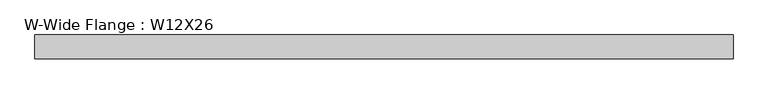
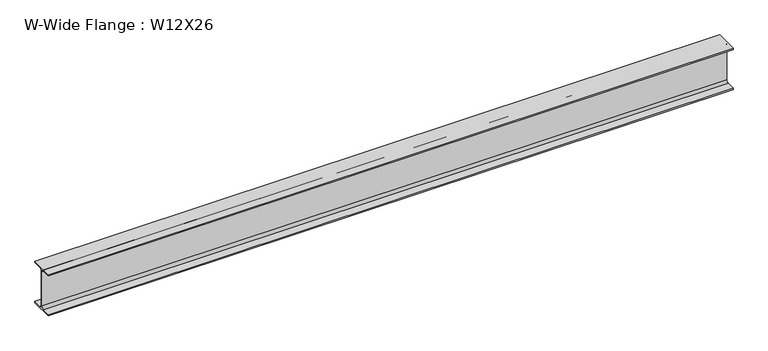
"""IFC4 building model written with IfcOpenShell, lengths in millimetres: beam geometry, W-Wide Flange : W12X26."""

from ifc_helpers import new_model, si_unit, point, frame, frame_2d, origin, place, context, project, spatial, polyline, circle_curve, trimmed, segment, composite_curve, outline, extrude, source, transform, mapped, element, save


def w_wide_flange_w12x26_1716f5f9(model_context):
    return source(origin(), model_context, "Body", "SweptSolid", [
        extrude(outline(composite_curve([segment(polyline([(82.423, -145.288), (82.423, -154.94), (-82.423, -154.94), (-82.423, -145.288), (-20.2565, -145.288)]), True, "CONTINUOUS"), segment(trimmed(circle_curve(frame_2d((-20.2565, -127.9525)), 17.3355), [point((-20.2565, -145.288))], [point((-2.921, -127.9525))], True, "CARTESIAN"), True, "CONTINUOUS"), segment(polyline([(-2.921, -127.9525), (-2.921, 127.9525)]), True, "CONTINUOUS"), segment(trimmed(circle_curve(frame_2d((-20.2565, 127.9525)), 17.3355), [point((-2.921, 127.9525))], [point((-20.2565, 145.288))], True, "CARTESIAN"), True, "CONTINUOUS"), segment(polyline([(-20.2565, 145.288), (-82.423, 145.288), (-82.423, 154.94), (82.423, 154.94), (82.423, 145.288), (20.2565, 145.288)]), True, "CONTINUOUS"), segment(trimmed(circle_curve(frame_2d((20.2565, 127.9525)), 17.3355), [point((20.2565, 145.288))], [point((2.921, 127.9525))], True, "CARTESIAN"), True, "CONTINUOUS"), segment(polyline([(2.921, 127.9525), (2.921, -127.9525)]), True, "CONTINUOUS"), segment(trimmed(circle_curve(frame_2d((20.2565, -127.9525)), 17.3355), [point((2.921, -127.9525))], [point((20.2565, -145.288))], True, "CARTESIAN"), True, "CONTINUOUS"), segment(polyline([(20.2565, -145.288), (82.423, -145.288)]), True, "CONTINUOUS")], self_intersect=False)), frame((-2508.377, 0.0, 0.0), z_axis=(1.0, 0.0, 0.0), x_axis=(0.0, 1.0, 0.0)), (0.0, 0.0, 1.0), 4845.304),
    ])


if __name__ == "__main__":
    model = new_model("IFC4")
    model_context = context("Model", 3, world=origin())
    ifc_project = project(units=[si_unit("LENGTHUNIT", "METRE", prefix="MILLI")], contexts=[model_context])
    site = spatial("IfcSite", under=ifc_project)
    building = spatial("IfcBuilding", under=site)
    placement = place(None, origin())
    w_wide_flange_w12x26_shape = w_wide_flange_w12x26_1716f5f9(model_context)
    element("IfcBeam", 1, ObjectType="W-Wide Flange : W12X26", at=placement, inside=building, context=model_context, shape_type="MappedRepresentation", body=[
        mapped(w_wide_flange_w12x26_shape, transform((0.0, 0.0, 0.0), x_axis=(1.0, 0.0, 0.0), y_axis=(0.0, 1.0, 0.0), z_axis=(0.0, 0.0, 1.0))),
    ])
    save(model, "model.ifc")
